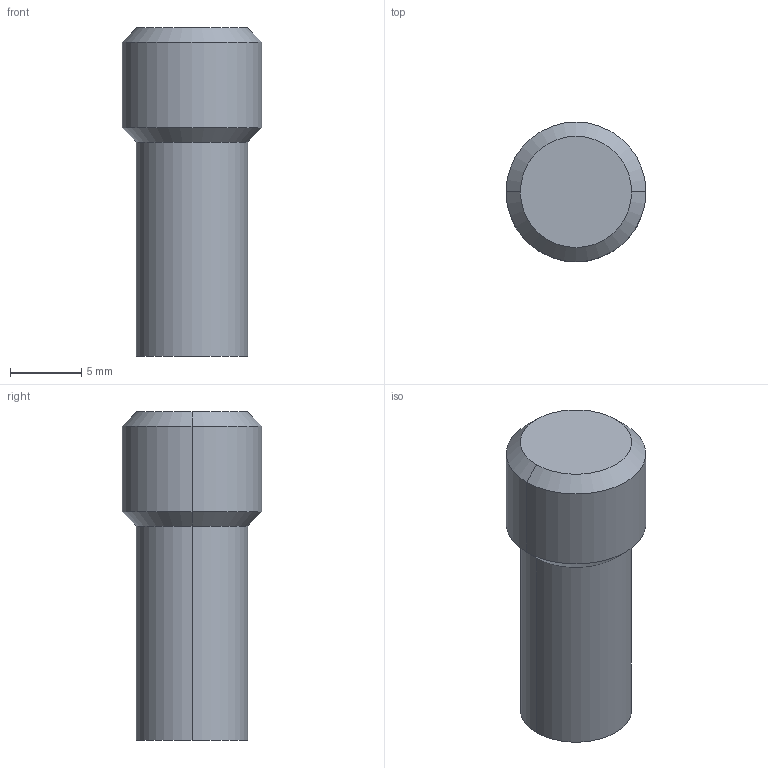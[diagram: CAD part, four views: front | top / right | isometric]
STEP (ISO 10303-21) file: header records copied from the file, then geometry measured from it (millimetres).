
FILE_DESCRIPTION (( 'STEP AP203' ), '1' );
FILE_NAME ('Bolt Handle.STEP', '2023-07-31T21:37:05', ( '' ), ( '' ), 'SwSTEP 2.0', 'SolidWorks 2021', '' );
FILE_SCHEMA (( 'CONFIG_CONTROL_DESIGN' ));
Length unit declared in the file: millimetre
Products named in the file (1): Bolt Handle
Bounding box: 9.8 x 9.8 x 23 mm (x, y, z)
Volume: 1291.5 mm3; surface area: 726.1 mm2
Topology: 1 solids, 1 shells, 10 faces, 18 edges, 10 vertices
Faces by surface type: cone 4, cylinder 4, plane 2
Entity records: 321 total; most frequent: DIRECTION 50, CARTESIAN_POINT 39, ORIENTED_EDGE 36, AXIS2_PLACEMENT_3D 21, EDGE_CURVE 18, CIRCLE 10, EDGE_LOOP 10, FACE_OUTER_BOUND 10
